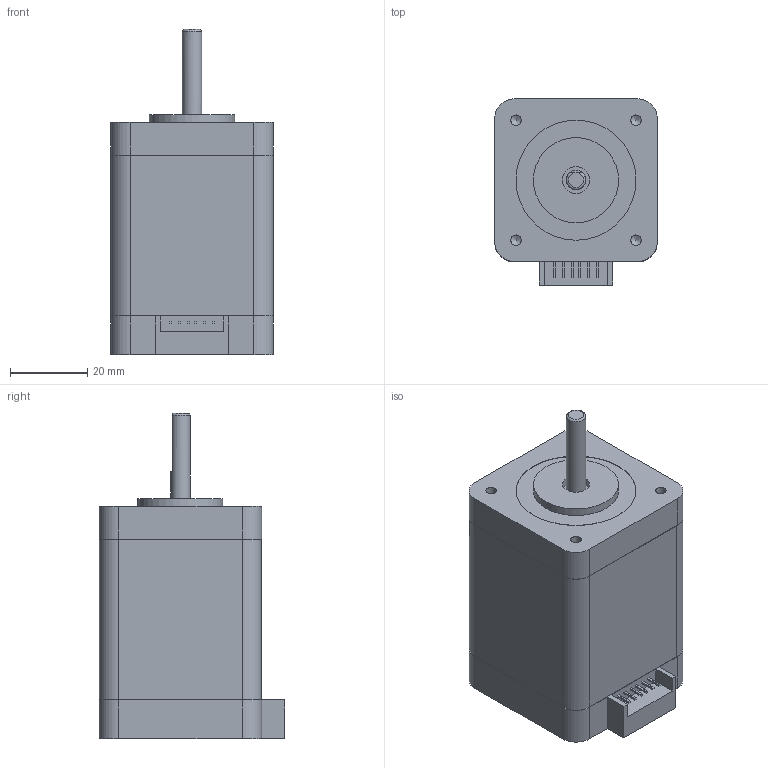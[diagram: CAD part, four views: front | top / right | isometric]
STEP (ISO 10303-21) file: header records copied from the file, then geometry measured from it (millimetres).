
FILE_DESCRIPTION(/* description */ (''),/* implementation_level */ '2;1');
FILE_NAME(/* name */ 'STP-42D20-0460.stp',/* time_stamp */ '2018-08-13T15:20:04+08:00',/* author */ (''),/* organization */ (''),/* preprocessor_version */ 'ST-DEVELOPER v11',/* originating_system */ 'SIEMENS UGS NX 6.0',/* authorisation */ '');
FILE_SCHEMA (('CONFIG_CONTROL_DESIGN'));
Length unit declared in the file: millimetre
Products named in the file (1): STP-42D20-0460
Bounding box: 42 x 48 x 84 mm (x, y, z)
Volume: 105845.8 mm3; surface area: 14397.2 mm2
Topology: 1 solids, 1 shells, 153 faces, 390 edges, 261 vertices
Faces by surface type: plane 118, cylinder 26, cone 8, torus 1
Full cylindrical faces by diameter (mm): 2.7 x4, 4.414 x4, 5 x2, 7 x2, 22 x1, 31 x1
Entity records: 4431 total; most frequent: CARTESIAN_POINT 763, DIRECTION 715, ORIENTED_EDGE 702, EDGE_CURVE 351, LINE 291, VECTOR 291, VERTEX_POINT 248, AXIS2_PLACEMENT_3D 212
